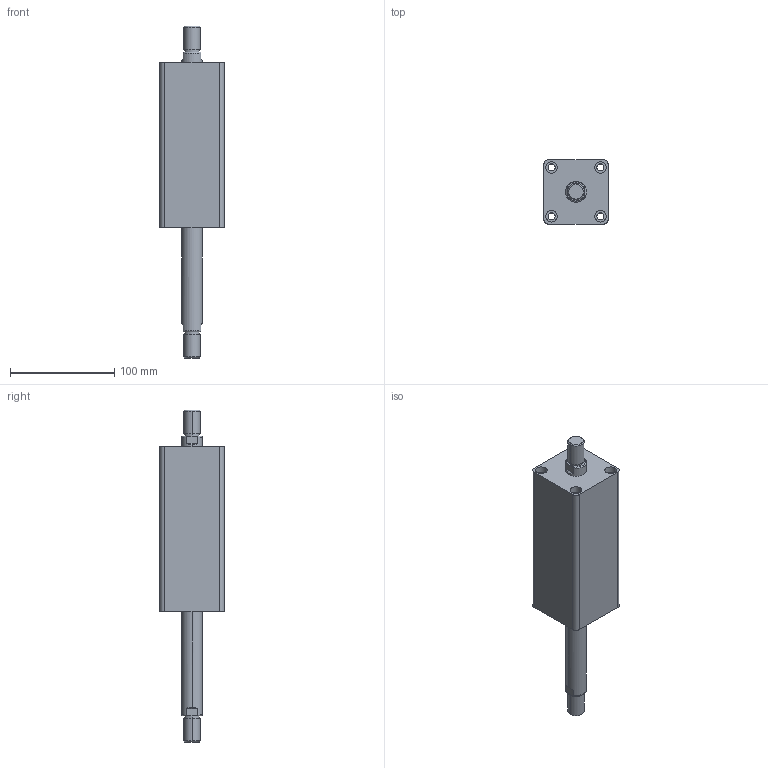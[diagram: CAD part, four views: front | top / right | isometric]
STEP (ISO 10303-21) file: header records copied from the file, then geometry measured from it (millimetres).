
FILE_DESCRIPTION (( 'STEP AP203' ), '1' );
FILE_NAME ('HTB-SW32-90W.STEP', '2019-10-07T09:00:00', ( '微软用户' ), ( '微软中国' ), 'SwSTEP 2.0', 'SolidWorks 2012', '' );
FILE_SCHEMA (( 'CONFIG_CONTROL_DESIGN' ));
Length unit declared in the file: millimetre
Products named in the file (3): HTB-SW32-90W; HTB-SW32-90W活塞杆; HTB-SW32-90掛极
Assembly tree (2 placements, depth 2):
  HTB-SW32-90W
    HTB-SW32-90掛极
    HTB-SW32-90W活塞杆
Bounding box: 62 x 62 x 319 mm (x, y, z)
Volume: 579354.8 mm3; surface area: 96480.1 mm2
Topology: 2 solids, 2 shells, 108 faces, 240 edges, 156 vertices
Faces by surface type: cylinder 52, plane 36, torus 12, cone 8
Entity records: 3449 total; most frequent: CARTESIAN_POINT 629, DIRECTION 586, ORIENTED_EDGE 480, AXIS2_PLACEMENT_3D 249, EDGE_CURVE 240, VERTEX_POINT 156, EDGE_LOOP 138, CIRCLE 136
